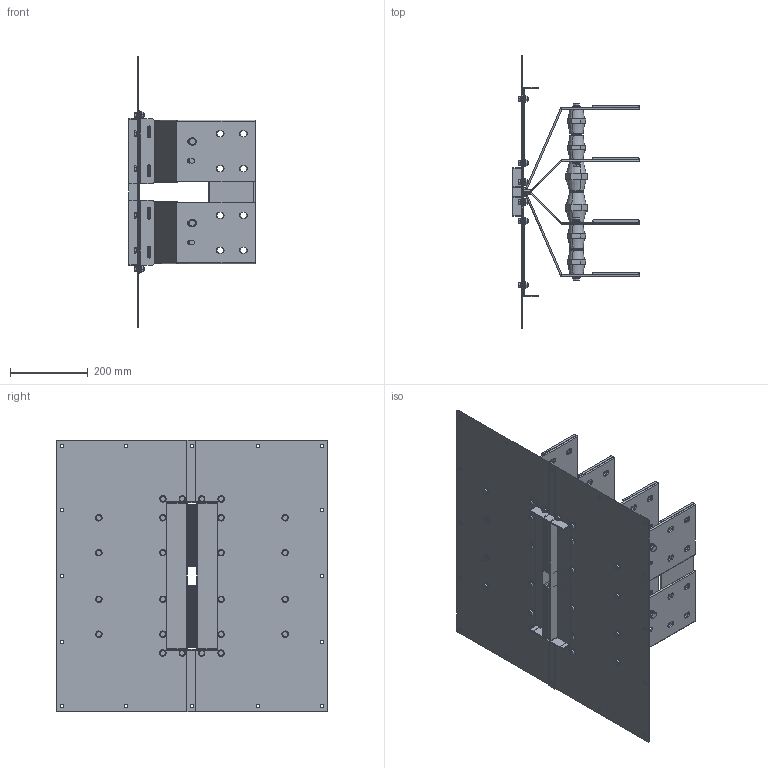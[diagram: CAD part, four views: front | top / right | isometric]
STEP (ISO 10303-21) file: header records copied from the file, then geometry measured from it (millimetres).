
FILE_DESCRIPTION(('CATIA V5 STEP','CAx-IF Rec.Pracs.--- Model Styling and Organization---1.5--- 2016-08-15','CAx-IF Rec.Pracs.---Supplemental Geometry---1.0---2011-11-01','CAx-IF Rec.Pracs.--- Composite Materials ---1.1---2010-07-15'),'2;1');
FILE_NAME('K:\COSCN 2011\32372311_RiduzioneSezioniBarre\03_Studio\__Modelli semplificati\XCP_UB semplificati per studi\XCP-HP_UB_4C_Pe_CRT_Assieme\Al\XCP-HP_UB_4C_Pe_D_Assieme - 2500A Al_CRT\XCP-HP_UB_4C_Pe_D_Assieme - 2500A Al_CRT.stp','2025-05-12T09:43:36+00:00',('Utente Bticino'),('Bticino S.p.A.'),'CATIA Version 5-6 Release 2020 SP5','CATIA V5 STEP AP214 v2','none');
FILE_SCHEMA(('AUTOMOTIVE_DESIGN { 1 0 10303 214 1 1 1 1 }'));
Length unit declared in the file: millimetre
Products named in the file (30): XCP-HP_UB_4C_Pe_D_Assieme - 2500A Al_CRT; XCP-HP_UB_4C_Pe_D_PaccoBarre_2500A Al_CRT; XCP-HP_UB_4C_Pe_D_Lamiere_2500A Al_CRT; XCP-HP_UB_4C_Pe_D_PaccoBarre_2500A Al_CRT_1; XCP-HP_UB_4C_Pe_D - 2500A Al_Bandelle parallelo_CRT; 130006; 130184; 00750033 - RONDELLA PIANA 4.8 D.12 UNI 6592 ZB; Ass_M10x25.1; 00740025 M10x25 UNI5739; Rondella spac M10 UNI 1751; 00750005; 130006_1; 00750033 - RONDELLA PIANA 4.8 D.12 UNI 6592 ZB_1; 130184_1; 130006_2; 00750033 - RONDELLA PIANA 4.8 D.12 UNI 6592 ZB_2; 130006_3; 130006_4; 130184_2; 00750033 - RONDELLA PIANA 4.8 D.12 UNI 6592 ZB_3; 130006_5; 00750033 - RONDELLA PIANA 4.8 D.12 UNI 6592 ZB_4; 130184_3; 130006_6; 00750033 - RONDELLA PIANA 4.8 D.12 UNI 6592 ZB_5; 130006_7; Ass Vite+dado M8; Steel hex flanged SCREW M12x16; Steel hex flanged NUT M8
Assembly tree (63 placements, depth 3):
  XCP-HP_UB_4C_Pe_D_Assieme - 2500A Al_CRT
    XCP-HP_UB_4C_Pe_D_PaccoBarre_2500A Al_CRT
    XCP-HP_UB_4C_Pe_D_Lamiere_2500A Al_CRT
    XCP-HP_UB_4C_Pe_D_PaccoBarre_2500A Al_CRT_1
    XCP-HP_UB_4C_Pe_D - 2500A Al_Bandelle parallelo_CRT
    130006
    130184
    00750033 - RONDELLA PIANA 4.8 D.12 UNI 6592 ZB
    Ass_M10x25.1  x12
      00740025 M10x25 UNI5739
      Rondella spac M10 UNI 1751
      00750005
    130006_1
    00750033 - RONDELLA PIANA 4.8 D.12 UNI 6592 ZB_1
    130184_1
    130006_2
    00750033 - RONDELLA PIANA 4.8 D.12 UNI 6592 ZB_2
    130006_3
    130006_4
    130184_2
    00750033 - RONDELLA PIANA 4.8 D.12 UNI 6592 ZB_3
    130006_5
    00750033 - RONDELLA PIANA 4.8 D.12 UNI 6592 ZB_4
    130184_3
    130006_6
    00750033 - RONDELLA PIANA 4.8 D.12 UNI 6592 ZB_5
    130006_7
    Ass Vite+dado M8  x24
      Steel hex flanged SCREW M12x16
      Steel hex flanged NUT M8
Bounding box: 325 x 700 x 700 mm (x, y, z)
Volume: 5903085.3 mm3; surface area: 3209948 mm2
Topology: 128 solids, 128 shells, 2880 faces, 6908 edges, 4344 vertices
Faces by surface type: plane 1288, cylinder 856, cone 336, bspline 288, torus 112
Entity records: 41532 total; most frequent: CARTESIAN_POINT 8434, ORIENTED_EDGE 7128, DIRECTION 5462, EDGE_CURVE 3564, AXIS2_PLACEMENT_3D 2354, VERTEX_POINT 2276, VECTOR 2104, LINE 2104
